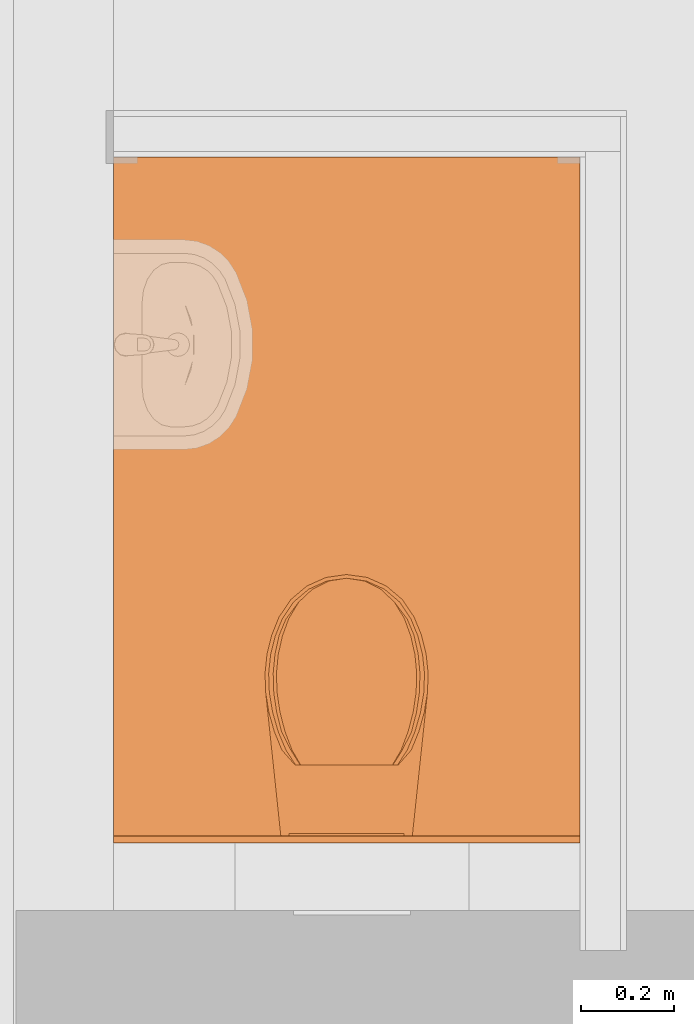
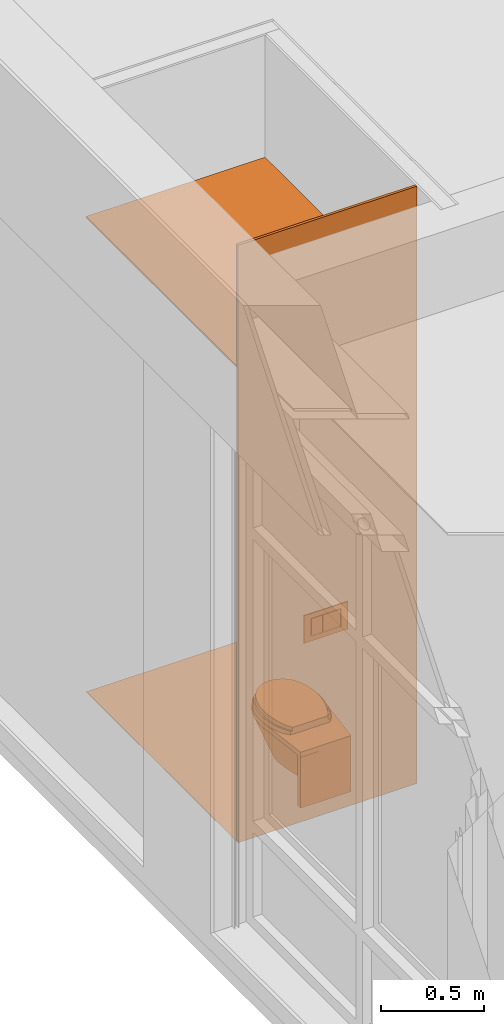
# One storey, part 128 of 167: 4 proxies.
"""IFC2X3 building model written with IfcOpenShell, lengths in millimetres."""

from ifc_helpers import new_model, entity, si_unit, converted_unit, derived_unit, money_unit, direction, frame, origin_with_axes, place, context, subcontext, project, spatial, open_shell, faceted_brep, surface_model, material, type_object, element, save


model = new_model("IFC2X3")

# Units and contexts
model_context = context("Model", 3, precision=0.01, world=origin_with_axes(), true_north=direction((0.0, 1.0)))
plan_context = context("Plan", 3, precision=0.01, world=origin_with_axes(), true_north=direction((0.0, 1.0)))
body_context = subcontext(model_context, "Body", "Model", "MODEL_VIEW")
ifc_project = project(units=[si_unit("LENGTHUNIT", "METRE", prefix="MILLI"), si_unit("AREAUNIT", "SQUARE_METRE"), si_unit("VOLUMEUNIT", "CUBIC_METRE"), converted_unit("PLANEANGLEUNIT", "DEGREE", entity("IfcPlaneAngleMeasure", 0.0174532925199), si_unit("PLANEANGLEUNIT", "RADIAN"), dimensions=[0, 0, 0, 0, 0, 0, 0]), si_unit("SOLIDANGLEUNIT", "STERADIAN"), money_unit("EUR"), converted_unit("TIMEUNIT", "Year", entity("IfcTimeMeasure", 31556926.0), si_unit("TIMEUNIT", "SECOND"), dimensions=[0, 0, 1, 0, 0, 0, 0]), si_unit("MASSUNIT", "GRAM", prefix="KILO"), si_unit("THERMODYNAMICTEMPERATUREUNIT", "DEGREE_CELSIUS"), si_unit("LUMINOUSINTENSITYUNIT", "LUMEN"), si_unit("ENERGYUNIT", "JOULE", prefix="MEGA"), derived_unit("THERMALCONDUCTANCEUNIT", [(si_unit("POWERUNIT", "WATT"), 1), (si_unit("LENGTHUNIT", "METRE"), -1), (si_unit("THERMODYNAMICTEMPERATUREUNIT", "KELVIN"), -1)]), derived_unit("SPECIFICHEATCAPACITYUNIT", [(si_unit("ENERGYUNIT", "JOULE"), 1), (si_unit("MASSUNIT", "GRAM", prefix="KILO"), -1), (si_unit("THERMODYNAMICTEMPERATUREUNIT", "KELVIN"), -1)]), derived_unit("MASSDENSITYUNIT", [(si_unit("MASSUNIT", "GRAM", prefix="KILO"), 1), (si_unit("VOLUMEUNIT", "CUBIC_METRE"), -1)])], contexts=[model_context, plan_context])

# Site, building, storey
site_placement = place(None, origin_with_axes())
site = spatial("IfcSite", under=ifc_project, at=site_placement, Name="Site", CompositionType="ELEMENT")
building_placement = place(site_placement, origin_with_axes())
building = spatial("IfcBuilding", under=site, at=building_placement, Name="Naam gebouw", CompositionType="ELEMENT")
storey_placement = place(building_placement, origin_with_axes())
storey = spatial("IfcBuildingStorey", under=building, at=storey_placement, Name="Begane grond", CompositionType="ELEMENT", Elevation=0.0)

# Proxies
ifc_material_1 = material(Name="ALG - BINNENAFWERKING")
building_element_proxy_type_1 = type_object("IfcBuildingElementProxyType", Name="ALG - BINNENAFWERKING 10", PredefinedType="NOTDEFINED")
proxy_1_placement = place(storey_placement, frame((214.0, 36284.8434171, 2800.0), z_axis=(0.0, 0.0, 1.0), x_axis=(1.0, 0.0, 0.0)))
element("IfcBuildingElementProxy", 1, at=proxy_1_placement, inside=storey, type_object=building_element_proxy_type_1, material=ifc_material_1, Name="23__Vloer-x", context=body_context, shape_type="Brep", body=[
    faceted_brep([(0.0, 0.0, 10.0), (0.0, 0.0, 0.0), (1000.0, 0.0, 0.0), (1000.0, 0.0, 10.0), (0.0, 1454.784928, 10.0), (0.0, 1454.784928, 0.0), (1000.0, 1454.784928, 0.0), (1000.0, 1454.784928, 10.0)], [[[0, 1, 2, 3]], [[4, 5, 1, 0]], [[2, 1, 5, 6]], [[3, 2, 6, 7]], [[4, 0, 3, 7]], [[7, 6, 5, 4]]]),
])
building_element_proxy_type_2 = type_object("IfcBuildingElementProxyType", Name="Toilet 24", PredefinedType="NOTDEFINED")
proxy_2_placement = place(storey_placement, frame((714.0, 36285.0, 0.0), z_axis=(0.0, 0.0, 1.0), x_axis=(-1.0, 0.0, 0.0)))
element("IfcBuildingElementProxy", 2, at=proxy_2_placement, inside=storey, type_object=building_element_proxy_type_2, Name="__FU - 003", context=body_context, shape_type="SurfaceModel", body=[
    faceted_brep([(141.028331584, -29.3186537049, 70.0), (-141.028331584, -29.3186537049, 70.0), (-141.028331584, 0.494905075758, 70.0), (141.028331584, 0.494905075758, 70.0), (141.028331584, -29.3186537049, 370.0), (-141.028331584, -29.3186537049, 370.0), (-141.028331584, 0.494905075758, 370.0), (141.028331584, 0.494905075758, 370.0)], [[[0, 1, 2, 3]], [[1, 0, 4, 5]], [[2, 1, 5, 6]], [[3, 2, 6, 7]], [[0, 3, 7, 4]], [[5, 4, 7, 6]]]),
    faceted_brep([(0.0, -70.8916738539, 370.0), (29.2232249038, -74.3401088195, 370.0), (48.9681706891, -81.5929972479, 370.0), (48.9681706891, -29.3186537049, 370.0), (-48.9681706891, -29.3186537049, 370.0), (-48.9681706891, -81.5929972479, 370.0), (-29.2232249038, -74.3401088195, 370.0), (13.7012941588, -104.950683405, 120.0), (48.9681706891, -91.4215326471, 305.928931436), (25.9903462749, -111.50270984, 120.0), (48.9681706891, -132.92940311, 150.834999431), (48.9681706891, -162.865413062, 120.0), (48.9681706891, -29.3186537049, 120.0), (48.9681706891, -98.3265451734, 277.009109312), (48.9681706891, -115.60239829, 192.796015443), (48.9681706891, -128.161443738, 166.474594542), (-48.9681706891, -29.3186537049, 120.0), (-48.9681706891, -88.2509938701, 324.161469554), (-48.9681706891, -162.865413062, 120.0), (-48.9681706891, -136.95889879, 141.313409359), (-48.9681706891, -132.92940311, 150.834999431), (-48.9681706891, -121.830119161, 170.496419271), (-48.9681706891, -115.60239829, 192.796015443), (-48.9681706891, -107.087637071, 223.462569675), (-48.9681706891, -91.4215326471, 305.928931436), (-13.7012941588, -104.950683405, 120.0), (0.0, -102.688828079, 120.0), (35.5988807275, -121.669133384, 120.0), (41.5367611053, -134.401510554, 120.0), (-41.5367611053, -134.401510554, 120.0), (-25.9903462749, -111.50270984, 120.0), (-35.5988807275, -121.669133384, 120.0)], [[[0, 1, 2, 3, 4, 5, 6]], [[1, 0, 7]], [[8, 2, 1, 9]], [[10, 11, 12, 3, 2, 8, 13, 14, 15]], [[3, 12, 16, 4]], [[17, 5, 4, 16, 18, 19, 20, 21, 22, 23, 24]], [[6, 5, 17, 25]], [[0, 6, 26]], [[26, 7, 0]], [[7, 9, 1]], [[13, 8, 9, 27]], [[11, 10, 28]], [[29, 18, 16, 12, 11, 28, 27, 9, 7, 26, 25, 30, 31]], [[14, 13, 27]], [[15, 14, 27, 28]], [[10, 15, 28]], [[18, 29, 19]], [[20, 19, 29]], [[29, 31, 21, 20]], [[22, 21, 31]], [[31, 30, 23, 22]], [[24, 23, 30]], [[30, 25, 17, 24]], [[25, 26, 6]]]),
    surface_model("IfcShellBasedSurfaceModel", [(17.6912207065, -459.020482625, 120.0), (34.0279818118, -451.688334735, 120.0), (85.1820916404, -535.368037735, 370.0), (0.0, -461.527802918, 120.0), (-17.6912207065, -459.020482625, 120.0), (-34.0279818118, -451.688334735, 120.0), (-47.758656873, -440.093841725, 120.0), (-57.8323889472, -425.125447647, 120.0), (-68.2302903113, -399.418209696, 120.0), (-74.9438265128, -372.478677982, 120.0), (-77.8388247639, -344.846477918, 120.0), (-76.8575026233, -317.0761417, 120.0), (-70.9734872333, -270.86512559, 120.0), (-63.1150752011, -224.958207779, 120.0), (-53.2959776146, -179.441847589, 120.0), (-41.5367611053, -134.401510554, 120.0), (-35.5988807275, -121.669133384, 120.0), (-25.9903462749, -111.50270984, 120.0), (-13.7012941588, -104.950683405, 120.0), (0.0, -102.688828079, 120.0), (13.7012941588, -104.950683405, 120.0), (25.9903462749, -111.50270984, 120.0), (35.5988807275, -121.669133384, 120.0), (41.5367611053, -134.401510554, 120.0), (53.2959776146, -179.441847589, 120.0), (63.1150752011, -224.958207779, 120.0), (70.9734872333, -270.86512559, 120.0), (76.8575026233, -317.0761417, 120.0), (77.8388247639, -344.845484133, 120.0), (74.9438265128, -372.478677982, 120.0), (68.2302903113, -399.418209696, 120.0), (57.8323889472, -425.125447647, 120.0), (47.758656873, -440.093841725, 120.0), (119.554809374, -506.343544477, 370.0), (44.2868135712, -553.722258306, 370.0), (0.0, -560.0, 370.0), (-44.2868135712, -553.722258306, 370.0), (-85.1820916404, -535.368037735, 370.0), (-119.554809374, -506.343544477, 370.0), (-144.773417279, -468.871876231, 370.0), (-160.389366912, -430.260336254, 370.0), (-170.473871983, -389.797374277, 370.0), (-174.82224554, -348.294912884, 370.0), (-173.347324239, -306.584750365, 370.0), (-164.811192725, -257.295981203, 370.0), (-149.839664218, -209.61416286, 370.0), (-128.705001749, -164.398919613, 370.0), (-101.788177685, -122.466149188, 370.0), (-81.512416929, -100.834424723, 370.0), (-56.8863238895, -84.5015634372, 370.0), (-29.2232249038, -74.3401088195, 370.0), (0.0, -70.8916738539, 370.0), (29.2232249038, -74.3401088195, 370.0), (56.8863238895, -84.5015634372, 370.0), (81.512416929, -100.834424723, 370.0), (101.788177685, -122.466149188, 370.0), (128.705001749, -164.398919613, 370.0), (149.839664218, -209.61416286, 370.0), (164.811192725, -257.296974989, 370.0), (173.347324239, -306.584750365, 370.0), (174.82224554, -348.294912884, 370.0), (170.473871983, -389.797374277, 370.0), (160.390346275, -430.260336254, 370.0), (144.773417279, -468.871876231, 370.0)], [open_shell([[[0, 1, 2]], [[0, 3, 4, 5, 6, 7, 8, 9, 10, 11, 12, 13, 14, 15, 16, 17, 18, 19, 20, 21, 22, 23, 24, 25, 26, 27, 28, 29, 30, 31, 32, 1]], [[1, 33, 2]], [[0, 2, 34]], [[3, 0, 34]], [[4, 3, 35]], [[5, 4, 36]], [[6, 5, 37]], [[7, 6, 38]], [[8, 7, 39]], [[9, 8, 40]], [[10, 9, 41]], [[11, 10, 42]], [[12, 11, 43]], [[13, 12, 44]], [[14, 13, 45]], [[15, 14, 46]], [[16, 15, 47]], [[17, 16, 48]], [[18, 17, 49]], [[19, 18, 50]], [[20, 19, 51]], [[21, 20, 52]], [[22, 21, 53]], [[23, 22, 54]], [[24, 23, 55]], [[25, 24, 56]], [[26, 25, 57]], [[27, 26, 58]], [[28, 27, 59]], [[29, 28, 60]], [[30, 29, 61]], [[31, 30, 62]], [[32, 31, 63]], [[1, 32, 33]], [[3, 34, 35]], [[4, 35, 36]], [[5, 36, 37]], [[6, 37, 38]], [[7, 38, 39]], [[8, 39, 40]], [[9, 40, 41]], [[10, 41, 42]], [[11, 42, 43]], [[12, 43, 44]], [[13, 44, 45]], [[14, 45, 46]], [[15, 46, 47]], [[16, 47, 48]], [[17, 48, 49]], [[18, 49, 50]], [[19, 50, 51]], [[20, 51, 52]], [[21, 52, 53]], [[22, 53, 54]], [[23, 54, 55]], [[24, 55, 56]], [[25, 56, 57]], [[26, 57, 58]], [[27, 58, 59]], [[28, 59, 60]], [[29, 60, 61]], [[30, 61, 62]], [[31, 62, 63]], [[32, 63, 33]]])]),
    faceted_brep([(-173.347324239, -306.584750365, 370.0), (-174.82224554, -348.294912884, 370.0), (-174.82224554, -348.294912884, 400.0), (-173.347324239, -306.584750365, 400.0), (-140.973487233, 0.0, 370.0), (140.97544596, 0.0, 370.0), (173.347324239, -306.584750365, 370.0), (174.82224554, -348.294912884, 370.0), (170.473871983, -389.797374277, 370.0), (160.390346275, -430.260336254, 370.0), (144.773417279, -468.871876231, 370.0), (119.554809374, -506.343544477, 370.0), (85.1820916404, -535.368037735, 370.0), (44.2868135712, -553.722258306, 370.0), (0.0, -560.0, 370.0), (-44.2868135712, -553.722258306, 370.0), (-85.1820916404, -535.368037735, 370.0), (-119.554809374, -506.343544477, 370.0), (-144.773417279, -468.871876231, 370.0), (-160.389366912, -430.260336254, 370.0), (-170.473871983, -389.797374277, 370.0), (144.502133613, -309.721136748, 370.0), (129.388597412, -258.283803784, 370.0), (97.1352221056, -215.741842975, 370.0), (52.0130115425, -187.731010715, 370.0), (0.0, -177.963095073, 370.0), (-52.0130115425, -187.731010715, 370.0), (-97.1352221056, -215.741842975, 370.0), (-129.388597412, -258.283803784, 370.0), (-144.502133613, -309.721136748, 370.0), (-145.829171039, -347.26336375, 370.0), (-141.914655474, -384.619752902, 370.0), (-132.838894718, -421.039996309, 370.0), (-118.78209164, -455.793661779, 370.0), (-98.0920601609, -486.538397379, 370.0), (-69.8903112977, -510.352474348, 370.0), (-36.3363413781, -525.411302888, 370.0), (0.0, -530.56209206, 370.0), (36.3363413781, -525.411302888, 370.0), (69.8903112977, -510.352474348, 370.0), (98.0920601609, -486.538397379, 370.0), (118.78209164, -455.793661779, 370.0), (132.838894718, -421.039996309, 370.0), (141.914655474, -384.619752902, 370.0), (145.829171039, -347.26336375, 370.0), (-170.473871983, -389.797374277, 400.0), (-160.389366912, -430.260336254, 400.0), (-144.773417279, -468.871876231, 400.0), (-119.554809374, -506.343544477, 400.0), (-85.1820916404, -535.368037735, 400.0), (-44.2868135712, -553.722258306, 400.0), (0.0, -560.0, 400.0), (44.2868135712, -553.722258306, 400.0), (85.1820916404, -535.368037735, 400.0), (119.554809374, -506.343544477, 400.0), (144.773417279, -468.871876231, 400.0), (160.390346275, -430.260336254, 400.0), (170.473871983, -389.797374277, 400.0), (174.82224554, -348.294912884, 400.0), (173.347324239, -306.584750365, 400.0), (140.97544596, 0.0, 400.0), (-140.973487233, 0.0, 400.0), (144.502133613, -309.721136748, 400.0), (145.829171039, -347.26336375, 400.0), (141.914655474, -384.619752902, 400.0), (132.838894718, -421.039996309, 400.0), (118.78209164, -455.793661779, 400.0), (98.0920601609, -486.538397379, 400.0), (69.8903112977, -510.352474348, 400.0), (36.3363413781, -525.411302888, 400.0), (0.0, -530.56209206, 400.0), (-36.3363413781, -525.411302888, 400.0), (-69.8903112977, -510.352474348, 400.0), (-98.0920601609, -486.538397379, 400.0), (-118.78209164, -455.793661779, 400.0), (-132.838894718, -421.039996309, 400.0), (-141.914655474, -384.619752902, 400.0), (-145.829171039, -347.26336375, 400.0), (-144.502133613, -309.721136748, 400.0), (-129.388597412, -258.283803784, 400.0), (-97.1352221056, -215.741842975, 400.0), (-52.0130115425, -187.731010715, 400.0), (0.0, -177.963095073, 400.0), (52.0130115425, -187.731010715, 400.0), (97.1352221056, -215.741842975, 400.0), (129.388597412, -258.283803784, 400.0)], [[[0, 1, 2, 3]], [[0, 4, 5, 6, 7, 8, 9, 10, 11, 12, 13, 14, 15, 16, 17, 18, 19, 20, 1], [21, 22, 23, 24, 25, 26, 27, 28, 29, 30, 31, 32, 33, 34, 35, 36, 37, 38, 39, 40, 41, 42, 43, 44]], [[1, 20, 45, 2]], [[3, 2, 45, 46, 47, 48, 49, 50, 51, 52, 53, 54, 55, 56, 57, 58, 59, 60, 61], [62, 63, 64, 65, 66, 67, 68, 69, 70, 71, 72, 73, 74, 75, 76, 77, 78, 79, 80, 81, 82, 83, 84, 85]], [[4, 0, 3, 61]], [[5, 4, 61, 60]], [[6, 5, 60, 59]], [[7, 6, 59, 58]], [[8, 7, 58, 57]], [[9, 8, 57, 56]], [[10, 9, 56, 55]], [[11, 10, 55, 54]], [[12, 11, 54, 53]], [[13, 12, 53, 52]], [[14, 13, 52, 51]], [[15, 14, 51, 50]], [[16, 15, 50, 49]], [[17, 16, 49, 48]], [[18, 17, 48, 47]], [[19, 18, 47, 46]], [[20, 19, 46, 45]], [[22, 21, 62, 85]], [[23, 22, 85, 84]], [[24, 23, 84, 83]], [[25, 24, 83, 82]], [[26, 25, 82, 81]], [[27, 26, 81, 80]], [[28, 27, 80, 79]], [[29, 28, 79, 78]], [[30, 29, 78, 77]], [[31, 30, 77, 76]], [[32, 31, 76, 75]], [[33, 32, 75, 74]], [[34, 33, 74, 73]], [[35, 34, 73, 72]], [[36, 35, 72, 71]], [[37, 36, 71, 70]], [[38, 37, 70, 69]], [[39, 38, 69, 68]], [[40, 39, 68, 67]], [[41, 40, 67, 66]], [[42, 41, 66, 65]], [[43, 42, 65, 64]], [[44, 43, 64, 63]], [[21, 44, 63, 62]]]),
    surface_model("IfcShellBasedSurfaceModel", [(16.8066596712, -465.732925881, 220.0), (32.3265827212, -460.013850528, 220.0), (80.9229870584, -525.284018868, 370.0), (0.0, -467.68863571, 220.0), (-16.8066596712, -465.732925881, 220.0), (-32.3265827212, -460.013850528, 220.0), (-45.3707240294, -450.97014598, 220.0), (-54.9407694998, -439.294798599, 220.0), (-64.8187757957, -419.243152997, 220.0), (-71.1966351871, -398.23031826, 220.0), (-73.9468835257, -376.67720221, 220.0), (-73.0146274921, -355.01633996, 220.0), (-67.4248128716, -318.971747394, 220.0), (-59.9593214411, -283.164351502, 220.0), (-50.6311787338, -247.661590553, 220.0), (-39.45992305, -212.530127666, 220.0), (-33.8189366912, -202.598873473, 220.0), (-24.6908289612, -194.669063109, 220.0), (-13.0162294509, -189.55848249, 220.0), (0.0, -187.794235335, 220.0), (13.0162294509, -189.55848249, 220.0), (24.6908289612, -194.669063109, 220.0), (33.8189366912, -202.598873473, 220.0), (39.45992305, -212.530127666, 220.0), (50.6311787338, -247.661590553, 220.0), (59.9593214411, -283.164351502, 220.0), (67.4248128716, -318.971747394, 220.0), (73.0146274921, -355.01633996, 220.0), (73.9468835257, -376.676427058, 220.0), (71.1966351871, -398.23031826, 220.0), (64.8187757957, -419.243152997, 220.0), (54.9407694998, -439.294798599, 220.0), (45.3707240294, -450.97014598, 220.0), (113.577068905, -502.644914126, 370.0), (42.0724728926, -539.600310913, 370.0), (0.0, -544.496949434, 370.0), (-42.0724728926, -539.600310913, 370.0), (-80.9229870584, -525.284018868, 370.0), (-113.577068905, -502.644914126, 370.0), (-137.534746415, -473.417012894, 370.0), (-152.369898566, -443.300011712, 370.0), (-161.950178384, -411.73890137, 370.0), (-166.081133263, -379.366981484, 370.0), (-164.679958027, -346.833054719, 370.0), (-156.570633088, -308.387814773, 370.0), (-142.347681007, -271.195996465, 370.0), (-122.269751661, -235.928106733, 370.0), (-96.6987688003, -203.220545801, 370.0), (-77.4367960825, -186.347800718, 370.0), (-54.042007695, -173.608168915, 370.0), (-27.7620636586, -165.682234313, 370.0), (0.0, -162.99245504, 370.0), (27.7620636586, -165.682234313, 370.0), (54.042007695, -173.608168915, 370.0), (77.4367960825, -186.347800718, 370.0), (96.6987688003, -203.220545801, 370.0), (122.269751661, -235.928106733, 370.0), (142.347681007, -271.195996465, 370.0), (156.570633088, -308.388589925, 370.0), (164.679958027, -346.833054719, 370.0), (166.081133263, -379.366981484, 370.0), (161.950178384, -411.73890137, 370.0), (152.370828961, -443.300011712, 370.0), (137.534746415, -473.417012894, 370.0)], [open_shell([[[0, 1, 2]], [[0, 3, 4, 5, 6, 7, 8, 9, 10, 11, 12, 13, 14, 15, 16, 17, 18, 19, 20, 21, 22, 23, 24, 25, 26, 27, 28, 29, 30, 31, 32, 1]], [[1, 33, 2]], [[0, 2, 34]], [[3, 0, 34]], [[4, 3, 35]], [[5, 4, 36]], [[6, 5, 37]], [[7, 6, 38]], [[8, 7, 39]], [[9, 8, 40]], [[10, 9, 41]], [[11, 10, 42]], [[12, 11, 43]], [[13, 12, 44]], [[14, 13, 45]], [[15, 14, 46]], [[16, 15, 47]], [[17, 16, 48]], [[18, 17, 49]], [[19, 18, 50]], [[20, 19, 51]], [[21, 20, 52]], [[22, 21, 53]], [[23, 22, 54]], [[24, 23, 55]], [[25, 24, 56]], [[26, 25, 57]], [[27, 26, 58]], [[28, 27, 59]], [[29, 28, 60]], [[30, 29, 61]], [[31, 30, 62]], [[32, 31, 63]], [[1, 32, 33]], [[3, 34, 35]], [[4, 35, 36]], [[5, 36, 37]], [[6, 37, 38]], [[7, 38, 39]], [[8, 39, 40]], [[9, 40, 41]], [[10, 41, 42]], [[11, 42, 43]], [[12, 43, 44]], [[13, 44, 45]], [[14, 45, 46]], [[15, 46, 47]], [[16, 47, 48]], [[17, 48, 49]], [[18, 49, 50]], [[19, 50, 51]], [[20, 51, 52]], [[21, 52, 53]], [[22, 53, 54]], [[23, 54, 55]], [[24, 55, 56]], [[25, 56, 57]], [[26, 57, 58]], [[27, 58, 59]], [[28, 59, 60]], [[29, 60, 61]], [[30, 61, 62]], [[31, 62, 63]], [[32, 63, 33]]])]),
    faceted_brep([(0.0, -560.0, 400.0), (-44.2868135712, -553.722258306, 400.0), (-85.1820916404, -535.368037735, 400.0), (-119.554809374, -506.343544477, 400.0), (-144.773417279, -468.871876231, 400.0), (-160.389366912, -430.260336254, 400.0), (-170.473871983, -389.797374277, 400.0), (-174.82224554, -348.294912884, 400.0), (-173.347324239, -306.584750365, 400.0), (-166.466316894, -264.426390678, 400.0), (-154.871633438, -223.344300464, 400.0), (-138.715075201, -183.881086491, 400.0), (-110.192657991, -151.316352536, 400.0), (110.192657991, -151.316352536, 400.0), (138.715075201, -183.881086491, 400.0), (154.871633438, -223.344300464, 400.0), (166.466316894, -264.426390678, 400.0), (173.347324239, -306.584750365, 400.0), (174.82224554, -348.294912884, 400.0), (170.473871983, -389.797374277, 400.0), (160.390346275, -430.260336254, 400.0), (144.773417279, -468.871876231, 400.0), (119.554809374, -506.343544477, 400.0), (85.1820916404, -535.368037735, 400.0), (44.2868135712, -553.722258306, 400.0), (87.0768965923, -411.996361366, 400.0), (94.5108554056, -382.276303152, 400.0), (97.7160649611, -351.79832554, 400.0), (96.6142529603, -320.742930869, 400.0), (90.9929409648, -286.794273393, 400.0), (81.3288631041, -253.338107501, 400.0), (68.7544855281, -223.466323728, 400.0), (-68.7541287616, -223.466323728, 400.0), (-81.3289539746, -253.338422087, 400.0), (-90.9929409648, -286.794273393, 400.0), (-96.6142529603, -320.742930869, 400.0), (-97.7160649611, -351.79832554, 400.0), (-94.5108554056, -382.276303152, 400.0), (-87.0768965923, -411.996361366, 400.0), (-76.4888004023, -438.077570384, 400.0), (-62.0685687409, -459.426212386, 400.0), (-44.2610983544, -474.406756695, 400.0), (-23.0257994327, -483.902301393, 400.0), (0.0, -487.154466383, 400.0), (23.0257994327, -483.902301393, 400.0), (44.2610983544, -474.406756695, 400.0), (62.0685687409, -459.426212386, 400.0), (76.4888004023, -438.077570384, 400.0), (0.0, -552.094437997, 420.0), (-42.1518013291, -546.118807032, 420.0), (-81.0756208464, -528.649055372, 420.0), (-113.791255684, -501.024805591, 420.0), (-137.792514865, -465.359839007, 420.0), (-152.99027632, -427.78481709, 420.0), (-162.803497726, -388.407068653, 420.0), (-167.035327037, -348.017646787, 420.0), (-165.600559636, -307.427480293, 420.0), (-158.59027632, -264.933221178, 420.0), (-146.688072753, -223.575852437, 420.0), (-130.061420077, -183.931769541, 420.0), (-108.940468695, -151.316352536, 420.0), (108.940468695, -151.316352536, 420.0), (130.061420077, -183.930775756, 420.0), (146.688072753, -223.575852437, 420.0), (158.59027632, -264.933221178, 420.0), (165.600559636, -307.427480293, 420.0), (167.035327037, -348.017646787, 420.0), (162.803497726, -388.407068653, 420.0), (152.99027632, -427.78481709, 420.0), (137.792514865, -465.359839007, 420.0), (113.791255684, -501.024805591, 420.0), (81.0756208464, -528.649055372, 420.0), (42.1518013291, -546.118807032, 420.0), (87.0768965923, -411.996361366, 420.0), (94.5108554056, -382.276303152, 420.0), (97.7160649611, -351.79832554, 420.0), (96.6142529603, -320.742930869, 420.0), (90.9929409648, -286.794273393, 420.0), (81.3288631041, -253.338107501, 420.0), (68.7544855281, -223.466323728, 420.0), (-68.7541287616, -223.466323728, 420.0), (-81.3289539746, -253.338422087, 420.0), (-90.9929409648, -286.794273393, 420.0), (-96.6142529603, -320.742930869, 420.0), (-97.7160649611, -351.79832554, 420.0), (-94.5108554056, -382.276303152, 420.0), (-87.0768965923, -411.996361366, 420.0), (-76.4888004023, -438.077570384, 420.0), (-62.0685687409, -459.426212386, 420.0), (-44.2610983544, -474.406756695, 420.0), (-23.0257994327, -483.902301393, 420.0), (0.0, -487.154466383, 420.0), (23.0257994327, -483.902301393, 420.0), (44.2610983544, -474.406756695, 420.0), (62.0685687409, -459.426212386, 420.0), (76.4888004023, -438.077570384, 420.0)], [[[0, 1, 2, 3, 4, 5, 6, 7, 8, 9, 10, 11, 12, 13, 14, 15, 16, 17, 18, 19, 20, 21, 22, 23, 24], [25, 26, 27, 28, 29, 30, 31, 32, 33, 34, 35, 36, 37, 38, 39, 40, 41, 42, 43, 44, 45, 46, 47]], [[1, 0, 48]], [[2, 1, 49]], [[3, 2, 50]], [[4, 3, 51]], [[5, 4, 52]], [[6, 5, 53]], [[6, 54, 55, 7]], [[8, 7, 55]], [[9, 8, 56]], [[10, 9, 57]], [[11, 10, 58]], [[12, 11, 59]], [[12, 60, 61, 13]], [[14, 13, 61]], [[15, 14, 62]], [[16, 15, 63]], [[17, 16, 64]], [[18, 17, 65]], [[18, 66, 67, 19]], [[20, 19, 67]], [[20, 68, 69, 21]], [[22, 21, 69]], [[23, 22, 70]], [[24, 23, 71]], [[0, 24, 72]], [[73, 74, 26, 25]], [[74, 75, 27, 26]], [[75, 76, 28, 27]], [[76, 77, 29, 28]], [[77, 78, 30, 29]], [[78, 79, 31, 30]], [[79, 80, 32, 31]], [[80, 81, 33, 32]], [[81, 82, 34, 33]], [[82, 83, 35, 34]], [[83, 84, 36, 35]], [[84, 85, 37, 36]], [[85, 86, 38, 37]], [[86, 87, 39, 38]], [[87, 88, 40, 39]], [[88, 89, 41, 40]], [[89, 90, 42, 41]], [[90, 91, 43, 42]], [[91, 92, 44, 43]], [[92, 93, 45, 44]], [[93, 94, 46, 45]], [[94, 95, 47, 46]], [[95, 73, 25, 47]], [[0, 72, 48]], [[1, 48, 49]], [[2, 49, 50]], [[3, 50, 51]], [[4, 51, 52]], [[5, 52, 53]], [[6, 53, 54]], [[54, 53, 52, 51, 50, 49, 48, 72, 71, 70, 69, 68, 67, 66, 65, 64, 63, 62, 61, 60, 59, 58, 57, 56, 55], [77, 76, 75, 74, 73, 95, 94, 93, 92, 91, 90, 89, 88, 87, 86, 85, 84, 83, 82, 81, 80, 79, 78]], [[8, 55, 56]], [[9, 56, 57]], [[10, 57, 58]], [[11, 58, 59]], [[12, 59, 60]], [[14, 61, 62]], [[15, 62, 63]], [[16, 63, 64]], [[17, 64, 65]], [[18, 65, 66]], [[20, 67, 68]], [[22, 69, 70]], [[23, 70, 71]], [[24, 71, 72]]]),
    faceted_brep([(-107.599328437, -494.418120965, 420.0), (-76.6638824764, -519.467473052, 420.0), (-72.9680587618, -528.649055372, 440.0), (-130.296075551, -463.902949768, 420.0), (-144.35043022, -430.260336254, 420.0), (-153.426484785, -389.797374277, 420.0), (-157.340020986, -348.294912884, 420.0), (-156.012591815, -306.584750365, 420.0), (-149.819685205, -264.426390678, 420.0), (-139.384470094, -223.344300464, 420.0), (-119.555005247, -183.881086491, 420.0), (-99.1733921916, -151.316352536, 420.0), (99.1733921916, -151.316352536, 420.0), (119.555005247, -183.881086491, 420.0), (139.384470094, -223.344300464, 420.0), (149.819685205, -264.426390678, 420.0), (156.012591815, -306.584750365, 420.0), (157.340020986, -348.294912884, 420.0), (153.426484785, -389.797374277, 420.0), (144.351311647, -430.260336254, 420.0), (130.296075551, -463.902949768, 420.0), (107.599328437, -494.418120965, 420.0), (76.6638824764, -519.467473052, 420.0), (39.8581322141, -538.815478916, 420.0), (0.0, -545.09322061, 420.0), (-39.8581322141, -538.815478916, 420.0), (-37.9366211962, -546.118807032, 440.0), (-102.412130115, -501.024805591, 440.0), (-124.013263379, -465.359839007, 440.0), (-137.691248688, -427.78481709, 440.0), (-146.523147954, -388.407068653, 440.0), (-150.331794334, -348.017646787, 440.0), (-149.040503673, -307.427480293, 440.0), (-142.731248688, -264.933221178, 440.0), (-132.019265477, -223.575852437, 440.0), (-117.055278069, -183.931769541, 440.0), (-98.0464218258, -151.316352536, 440.0), (98.0464218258, -151.316352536, 440.0), (117.055278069, -183.930775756, 440.0), (132.019265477, -223.575852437, 440.0), (142.731248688, -264.933221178, 440.0), (149.040503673, -307.427480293, 440.0), (150.331794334, -348.017646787, 440.0), (146.523147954, -388.407068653, 440.0), (137.691248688, -427.78481709, 440.0), (124.013263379, -465.359839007, 440.0), (102.412130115, -501.024805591, 440.0), (72.9680587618, -528.649055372, 440.0), (37.9366211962, -546.118807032, 440.0), (0.0, -552.094437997, 440.0)], [[[0, 1, 2]], [[0, 3, 4, 5, 6, 7, 8, 9, 10, 11, 12, 13, 14, 15, 16, 17, 18, 19, 20, 21, 22, 23, 24, 25, 1]], [[1, 26, 2]], [[0, 2, 27]], [[3, 0, 27]], [[4, 3, 28]], [[5, 4, 29]], [[6, 5, 30, 31]], [[7, 6, 31]], [[8, 7, 32]], [[9, 8, 33]], [[10, 9, 34]], [[11, 10, 35]], [[12, 11, 36, 37]], [[13, 12, 37]], [[14, 13, 38]], [[15, 14, 39]], [[16, 15, 40]], [[17, 16, 41]], [[18, 17, 42, 43]], [[19, 18, 43]], [[20, 19, 44]], [[21, 20, 45]], [[22, 21, 46]], [[23, 22, 47]], [[24, 23, 48]], [[25, 24, 49]], [[1, 25, 26]], [[27, 2, 26, 49, 48, 47, 46, 45, 44, 43, 42, 41, 40, 39, 38, 37, 36, 35, 34, 33, 32, 31, 30, 29, 28]], [[3, 27, 28]], [[4, 28, 29]], [[5, 29, 30]], [[7, 31, 32]], [[8, 32, 33]], [[9, 33, 34]], [[10, 34, 35]], [[11, 35, 36]], [[13, 37, 38]], [[14, 38, 39]], [[15, 39, 40]], [[16, 40, 41]], [[17, 41, 42]], [[19, 43, 44]], [[20, 44, 45]], [[21, 45, 46]], [[22, 46, 47]], [[23, 47, 48]], [[24, 48, 49]], [[25, 49, 26]]]),
    faceted_brep([(-83.0, 0.0, 1036.0), (-83.0, 0.0, 1170.0), (-83.0, -5.0, 1170.0), (-83.0, -5.0, 1036.0), (-123.0, 0.0, 1036.0), (-123.0, 0.0, 1200.0), (123.0, 0.0, 1200.0), (123.0, 0.0, 1036.0), (83.0, 0.0, 1036.0), (83.0, 0.0, 1170.0), (83.0, -5.0, 1170.0), (83.0, -5.0, 1036.0), (123.0, -5.0, 1036.0), (123.0, -5.0, 1200.0), (-123.0, -5.0, 1200.0), (-123.0, -5.0, 1036.0)], [[[0, 1, 2, 3]], [[0, 4, 5, 6, 7, 8, 9, 1]], [[1, 9, 10, 2]], [[3, 2, 10, 11, 12, 13, 14, 15]], [[4, 0, 3, 15]], [[5, 4, 15, 14]], [[6, 5, 14, 13]], [[7, 6, 13, 12]], [[8, 7, 12, 11]], [[9, 8, 11, 10]]]),
    faceted_brep([(83.0, 0.0, 1066.0), (-83.0, 0.0, 1066.0), (-83.0, -5.0, 1036.0), (83.0, -5.0, 1036.0), (83.0, 0.0, 1036.0), (-83.0, 0.0, 1036.0)], [[[0, 1, 2, 3]], [[1, 0, 4, 5]], [[1, 5, 2]], [[3, 2, 5, 4]], [[4, 0, 3]]]),
    faceted_brep([(-81.0, 0.0, 1068.0), (17.0, 0.0, 1068.0), (17.0, -5.0, 1068.0), (-81.0, -5.0, 1068.0), (-81.0, 0.0, 1168.0), (17.0, 0.0, 1168.0), (17.0, -5.0, 1168.0), (-81.0, -5.0, 1168.0)], [[[0, 1, 2, 3]], [[0, 4, 5, 1]], [[1, 5, 6, 2]], [[3, 2, 6, 7]], [[4, 0, 3, 7]], [[5, 4, 7, 6]]]),
    faceted_brep([(19.0, 0.0, 1168.0), (19.0, 0.0, 1068.0), (19.0, -5.0, 1068.0), (19.0, -5.0, 1168.0), (81.0, 0.0, 1168.0), (81.0, 0.0, 1068.0), (81.0, -5.0, 1068.0), (81.0, -5.0, 1168.0)], [[[0, 1, 2, 3]], [[0, 4, 5, 1]], [[1, 5, 6, 2]], [[3, 2, 6, 7]], [[4, 0, 3, 7]], [[5, 4, 7, 6]]]),
])
ifc_material_2 = material(Name="_TenW_43_Flexx F15")
building_element_proxy_type_3 = type_object("IfcBuildingElementProxyType", Name="_TenW_43_Flexx F15 2", PredefinedType="NOTDEFINED")
proxy_3_placement = place(storey_placement, frame((214.0, 36284.8434171, 0.0), z_axis=(0.0, 0.0, 1.0), x_axis=(1.0, 0.0, 0.0)))
element("IfcBuildingElementProxy", 3, at=proxy_3_placement, inside=storey, type_object=building_element_proxy_type_3, material=ifc_material_2, Name="23__Vloer-x", context=body_context, shape_type="Brep", body=[
    faceted_brep([(0.0, 0.0, 2.0), (0.0, 0.0, 0.0), (1000.0, 0.0, 0.0), (1000.0, 0.0, 2.0), (0.0, 1454.784928, 2.0), (0.0, 1454.784928, 0.0), (1000.0, 1454.784928, 0.0), (1000.0, 1454.784928, 2.0)], [[[0, 1, 2, 3]], [[4, 5, 1, 0]], [[2, 1, 5, 6]], [[3, 2, 6, 7]], [[4, 0, 3, 7]], [[7, 6, 5, 4]]]),
])
ifc_material_3 = material(Name="_TenW_22_Gipsplaat watervast")
building_element_proxy_type_4 = type_object("IfcBuildingElementProxyType", Name="_TenW_22_Gipsvezelplaat watervast 15", PredefinedType="NOTDEFINED")
proxy_4_placement = place(storey_placement, frame((1264.0, 36284.8434171, 0.0), z_axis=(0.0, 0.0, 1.0), x_axis=(-1.0, 0.0, 0.0)))
element("IfcBuildingElementProxy", 4, at=proxy_4_placement, inside=storey, type_object=building_element_proxy_type_4, material=ifc_material_3, Name="22__Wand-x", context=body_context, shape_type="Brep", body=[
    faceted_brep([(1050.0, 0.0, 0.0), (1050.0, 0.0, 3530.0), (50.0, 0.0, 3530.0), (50.0, 0.0, 0.0), (1050.0, 15.0, 0.0), (1050.0, 15.0, 3530.0), (50.0, 15.0, 3530.0), (50.0, 15.0, 0.0)], [[[0, 1, 2, 3]], [[4, 5, 1, 0]], [[5, 6, 2, 1]], [[3, 2, 6, 7]], [[4, 0, 3, 7]], [[7, 6, 5, 4]]]),
])

save(model, "model.ifc")
